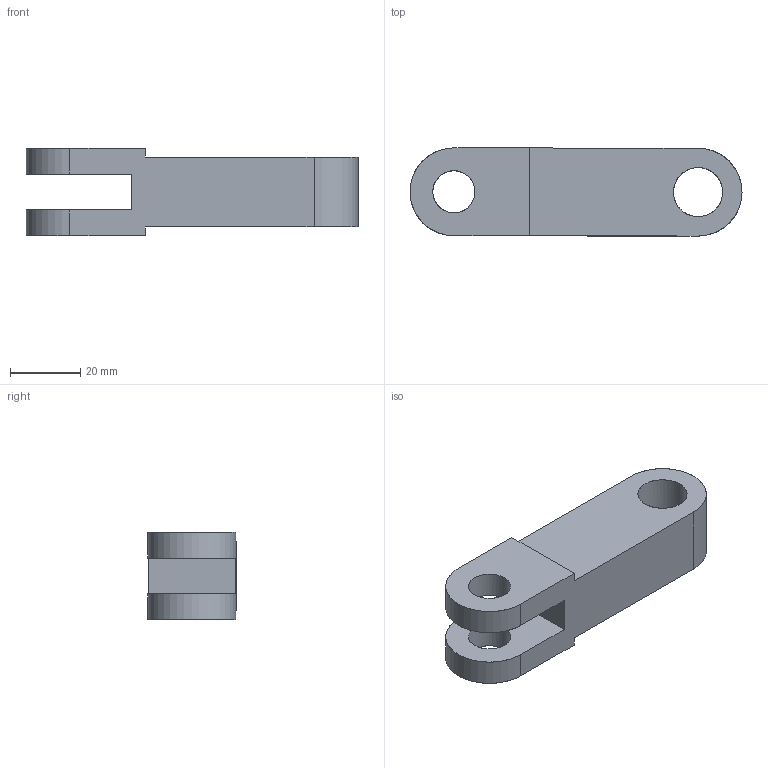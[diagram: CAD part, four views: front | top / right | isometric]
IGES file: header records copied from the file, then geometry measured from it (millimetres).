
Start section: File produced by SOLID-CONCEP (Trim Surfaces - Entity 144)
Global section: file name: 43.igs; native system: SOLID-CONCEPT V.5.xx; preprocessor: SOLID-CONCEPT-IGES-OUT v2.00; date: 100220.124614; units: millimetre
Bounding box: 94.5 x 25.09 x 25 mm (x, y, z)
Surface area: 10869.1 mm2 (no closed solid volume)
Topology: 0 solids, 0 shells, 17 faces, 114 edges, 108 vertices
Faces by surface type: bspline 11, revolution 6
